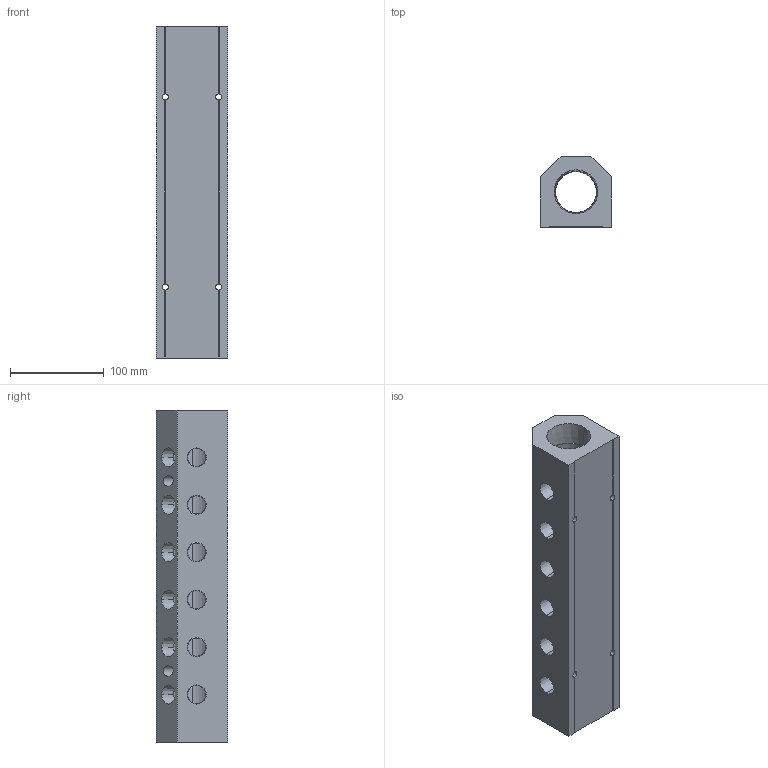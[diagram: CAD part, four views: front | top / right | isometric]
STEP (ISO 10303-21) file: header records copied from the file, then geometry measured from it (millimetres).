
FILE_DESCRIPTION (( 'STEP AP214' ), '1' );
FILE_NAME ('ALM6ABC-N8N24-355R.step', '2022-02-07T09:23:24', ( '' ), ( '' ), 'SwSTEP 2.0', 'SolidWorks 2020', '' );
FILE_SCHEMA (( 'AUTOMOTIVE_DESIGN' ));
Length unit declared in the file: millimetre
Products named in the file (1): ALM6ABC-N8N24-355R
Bounding box: 76.2 x 76.2 x 355 mm (x, y, z)
Volume: 1224620.6 mm3; surface area: 169519.9 mm2
Topology: 1 solids, 1 shells, 358 faces, 1009 edges, 670 vertices
Faces by surface type: plane 213, bspline 87, cone 40, cylinder 18
Entity records: 21777 total; most frequent: CARTESIAN_POINT 9745, ORIENTED_EDGE 2018, DIRECTION 1351, EDGE_CURVE 1009, VERTEX_POINT 670, LINE 663, VECTOR 663, EDGE_LOOP 421
